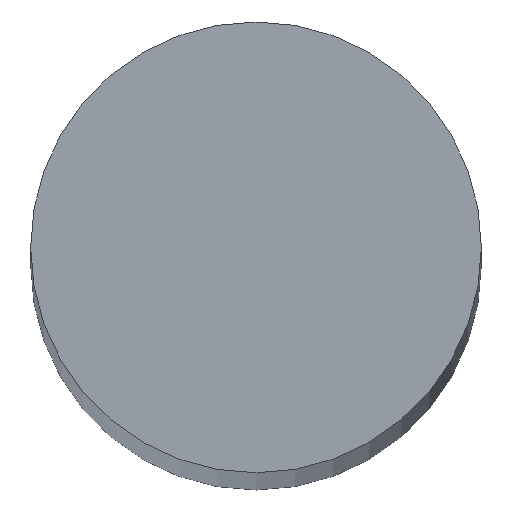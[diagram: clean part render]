
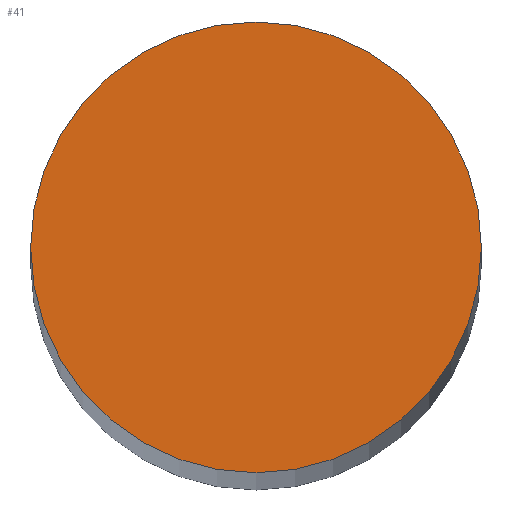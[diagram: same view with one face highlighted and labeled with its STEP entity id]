
A CAD part, top view. The second image highlights one B-rep face of the part: STEP entity #41.
In plain terms, the highlighted planar face has unit normal (0, 0, 1).
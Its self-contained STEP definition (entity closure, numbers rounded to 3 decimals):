
#16=PLANE('',#66);
#19=FACE_OUTER_BOUND('',#22,.T.);
#22=EDGE_LOOP('',(#37));
#25=CIRCLE('',#63,8.);
#27=VERTEX_POINT('',#82);
#29=EDGE_CURVE('',#27,#27,#25,.T.);
#37=ORIENTED_EDGE('',*,*,#29,.T.);
#41=ADVANCED_FACE('',(#19),#16,.T.);
#63=AXIS2_PLACEMENT_3D('',#83,#71,#72);
#66=AXIS2_PLACEMENT_3D('',#88,#78,#79);
#71=DIRECTION('center_axis',(0.,0.,1.));
#72=DIRECTION('ref_axis',(-1.,0.,0.));
#78=DIRECTION('center_axis',(0.,0.,1.));
#79=DIRECTION('ref_axis',(1.,0.,0.));
#82=CARTESIAN_POINT('',(8.,0.,350.));
#83=CARTESIAN_POINT('Origin',(0.,0.,350.));
#88=CARTESIAN_POINT('Origin',(0.,0.,
350.));
